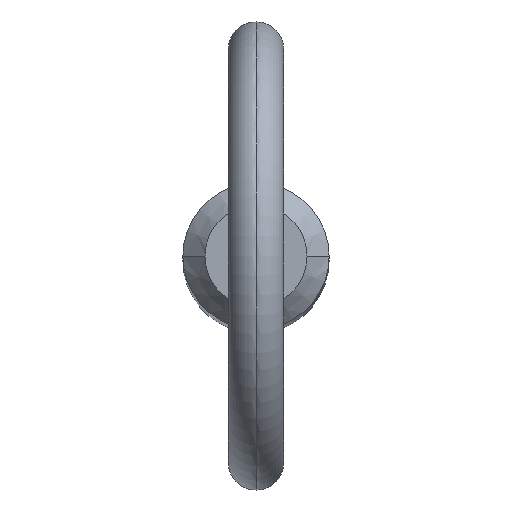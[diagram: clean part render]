
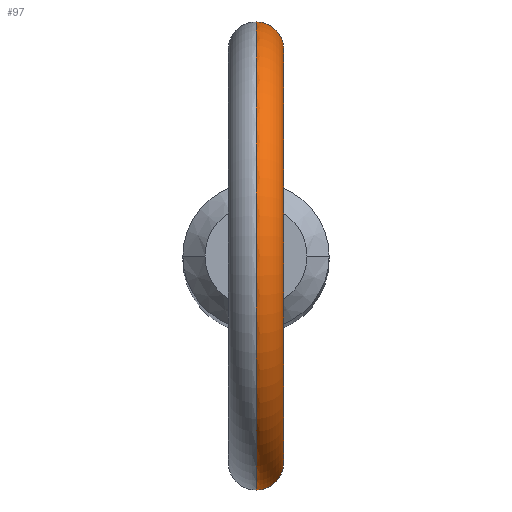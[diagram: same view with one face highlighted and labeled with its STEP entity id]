
A CAD part, top view. The second image highlights one B-rep face of the part: STEP entity #97.
In plain terms, the highlighted toroidal (fillet/blend) face has major radius 11.2 mm and minor radius 1.5 mm.
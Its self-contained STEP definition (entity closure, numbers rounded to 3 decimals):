
#3 = AXIS2_PLACEMENT_3D ( 'NONE', #387, #156, #346 ) ;
#11 = DIRECTION ( 'NONE',  ( 1., 0., 0. ) ) ;
#17 = ORIENTED_EDGE ( 'NONE', *, *, #485, .F. ) ;
#20 = CARTESIAN_POINT ( 'NONE',  ( 1.346, -3.73, 108.108 ) ) ;
#22 = CARTESIAN_POINT ( 'NONE',  ( 0.77, -3.894, 110.3 ) ) ;
#26 = CARTESIAN_POINT ( 'NONE',  ( 0.409, -3.948, 107.374 ) ) ;
#30 = VERTEX_POINT ( 'NONE', #427 ) ;
#33 = CARTESIAN_POINT ( 'NONE',  ( 1.236, 3.77, 107.929 ) ) ;
#34 = CARTESIAN_POINT ( 'NONE',  ( 1.488, 3.675, 109.105 ) ) ;
#36 = TOROIDAL_SURFACE ( 'NONE', #3, 11.2, 1.5 ) ;
#49 = DIRECTION ( 'NONE',  ( 0., 0., -1. ) ) ;
#57 = CARTESIAN_POINT ( 'NONE',  ( 1.291, -3.75, 109.683 ) ) ;
#58 = CARTESIAN_POINT ( 'NONE',  ( 0., 0., 119.4 ) ) ;
#62 = CARTESIAN_POINT ( 'NONE',  ( 0.102, -3.965, 110.547 ) ) ;
#65 = CARTESIAN_POINT ( 'NONE',  ( 0.205, -3.961, 110.534 ) ) ;
#67 = CARTESIAN_POINT ( 'NONE',  ( 0., -3.965, 110.547 ) ) ;
#69 = B_SPLINE_CURVE_WITH_KNOTS ( 'NONE', 3,
 ( #309, #433, #506, #268, #263, #310, #464, #33, #192, #72, #386, #73, #149, #34, #468, #501, #191, #78, #189, #463, #262, #352 ),
 .UNSPECIFIED., .F., .F.,
 ( 4, 2, 2, 2, 2, 2, 2, 2, 2, 2, 4 ),
 ( 0.001, 0.001, 0.002, 0.002, 0.003, 0.003, 0.003, 0.004, 0.004, 0.005, 0.006 ),
 .UNSPECIFIED. ) ;
#72 = CARTESIAN_POINT ( 'NONE',  ( 1.447, 3.692, 108.393 ) ) ;
#73 = CARTESIAN_POINT ( 'NONE',  ( 1.499, 3.671, 108.694 ) ) ;
#78 = CARTESIAN_POINT ( 'NONE',  ( 0.927, 3.858, 110.167 ) ) ;
#97 = ADVANCED_FACE ( 'NONE', ( #322 ), #36, .T. ) ;
#102 = DIRECTION ( 'NONE',  ( 1., 0., 0. ) ) ;
#130 = EDGE_LOOP ( 'NONE', ( #425, #319, #17, #227 ) ) ;
#136 = EDGE_CURVE ( 'NONE', #30, #417, #69, .T. ) ;
#140 = CARTESIAN_POINT ( 'NONE',  ( 0.949, -3.851, 107.649 ) ) ;
#141 = CARTESIAN_POINT ( 'NONE',  ( 0.693, -3.905, 107.49 ) ) ;
#149 = CARTESIAN_POINT ( 'NONE',  ( 1.503, 3.669, 108.798 ) ) ;
#156 = DIRECTION ( 'NONE',  ( 1., 0., 0. ) ) ;
#177 = CARTESIAN_POINT ( 'NONE',  ( 1.493, -3.673, 109.004 ) ) ;
#179 = CARTESIAN_POINT ( 'NONE',  ( 1.404, -3.708, 109.401 ) ) ;
#180 = CIRCLE ( 'NONE', #461, 9.7 ) ;
#183 = CARTESIAN_POINT ( 'NONE',  ( 0.404, -3.946, 110.482 ) ) ;
#184 = CARTESIAN_POINT ( 'NONE',  ( 0.782, -3.888, 107.537 ) ) ;
#189 = CARTESIAN_POINT ( 'NONE',  ( 0.769, 3.894, 110.301 ) ) ;
#191 = CARTESIAN_POINT ( 'NONE',  ( 1.185, 3.786, 109.86 ) ) ;
#192 = CARTESIAN_POINT ( 'NONE',  ( 1.344, 3.731, 108.103 ) ) ;
#210 = CARTESIAN_POINT ( 'NONE',  ( 0., -3.965, 107.335 ) ) ;
#215 = CARTESIAN_POINT ( 'NONE',  ( 1.447, -3.692, 108.393 ) ) ;
#216 = CARTESIAN_POINT ( 'NONE',  ( 1.434, -3.697, 109.305 ) ) ;
#227 = ORIENTED_EDGE ( 'NONE', *, *, #502, .F. ) ;
#250 = CARTESIAN_POINT ( 'NONE',  ( 0.925, -3.858, 110.168 ) ) ;
#253 = CARTESIAN_POINT ( 'NONE',  ( 1.499, -3.671, 108.697 ) ) ;
#259 = CARTESIAN_POINT ( 'NONE',  ( 1.186, -3.786, 109.859 ) ) ;
#262 = CARTESIAN_POINT ( 'NONE',  ( 0.206, 3.965, 110.547 ) ) ;
#263 = CARTESIAN_POINT ( 'NONE',  ( 0.782, 3.888, 107.537 ) ) ;
#268 = CARTESIAN_POINT ( 'NONE',  ( 0.691, 3.905, 107.489 ) ) ;
#283 = CARTESIAN_POINT ( 'NONE',  ( 0., 0., 119.4 ) ) ;
#309 = CARTESIAN_POINT ( 'NONE',  ( 0., 3.965, 107.335 ) ) ;
#310 = CARTESIAN_POINT ( 'NONE',  ( 0.949, 3.851, 107.649 ) ) ;
#319 = ORIENTED_EDGE ( 'NONE', *, *, #363, .T. ) ;
#322 = FACE_OUTER_BOUND ( 'NONE', #130, .T. ) ;
#326 = B_SPLINE_CURVE_WITH_KNOTS ( 'NONE', 3,
 ( #67, #62, #65, #183, #497, #22, #250, #259, #57, #179, #216, #455, #177, #378, #253, #373, #215, #20, #453, #333, #140, #184, #141, #26, #416, #340 ),
 .UNSPECIFIED., .F., .F.,
 ( 4, 2, 2, 2, 2, 2, 2, 2, 2, 2, 2, 2, 4 ),
 ( 0.004, 0.005, 0.005, 0.005, 0.006, 0.006, 0.007, 0.007, 0.007, 0.008, 0.008, 0.008, 0.009 ),
 .UNSPECIFIED. ) ;
#333 = CARTESIAN_POINT ( 'NONE',  ( 1.028, -3.83, 107.715 ) ) ;
#336 = DIRECTION ( 'NONE',  ( 0., 0., -1. ) ) ;
#337 = CARTESIAN_POINT ( 'NONE',  ( 0., -3.965, 110.547 ) ) ;
#340 = CARTESIAN_POINT ( 'NONE',  ( 0., -3.965, 107.335 ) ) ;
#345 = VERTEX_POINT ( 'NONE', #337 ) ;
#346 = DIRECTION ( 'NONE',  ( 0., 0., -1. ) ) ;
#352 = CARTESIAN_POINT ( 'NONE',  ( 0., 3.965, 110.547 ) ) ;
#353 = VERTEX_POINT ( 'NONE', #210 ) ;
#358 = CIRCLE ( 'NONE', #438, 12.7 ) ;
#363 = EDGE_CURVE ( 'NONE', #30, #353, #358, .T. ) ;
#373 = CARTESIAN_POINT ( 'NONE',  ( 1.471, -3.682, 108.494 ) ) ;
#378 = CARTESIAN_POINT ( 'NONE',  ( 1.503, -3.669, 108.799 ) ) ;
#386 = CARTESIAN_POINT ( 'NONE',  ( 1.47, 3.682, 108.492 ) ) ;
#387 = CARTESIAN_POINT ( 'NONE',  ( 0., 0., 119.4 ) ) ;
#416 = CARTESIAN_POINT ( 'NONE',  ( 0.205, -3.965, 107.335 ) ) ;
#417 = VERTEX_POINT ( 'NONE', #487 ) ;
#425 = ORIENTED_EDGE ( 'NONE', *, *, #136, .F. ) ;
#427 = CARTESIAN_POINT ( 'NONE',  ( 0., 3.965, 107.335 ) ) ;
#433 = CARTESIAN_POINT ( 'NONE',  ( 0.204, 3.965, 107.335 ) ) ;
#438 = AXIS2_PLACEMENT_3D ( 'NONE', #283, #11, #49 ) ;
#453 = CARTESIAN_POINT ( 'NONE',  ( 1.237, -3.77, 107.931 ) ) ;
#455 = CARTESIAN_POINT ( 'NONE',  ( 1.479, -3.679, 109.107 ) ) ;
#461 = AXIS2_PLACEMENT_3D ( 'NONE', #58, #102, #336 ) ;
#463 = CARTESIAN_POINT ( 'NONE',  ( 0.411, 3.948, 110.491 ) ) ;
#464 = CARTESIAN_POINT ( 'NONE',  ( 1.026, 3.831, 107.713 ) ) ;
#468 = CARTESIAN_POINT ( 'NONE',  ( 1.441, 3.695, 109.308 ) ) ;
#485 = EDGE_CURVE ( 'NONE', #345, #353, #326, .T. ) ;
#487 = CARTESIAN_POINT ( 'NONE',  ( 0., 3.965, 110.547 ) ) ;
#497 = CARTESIAN_POINT ( 'NONE',  ( 0.498, -3.935, 110.444 ) ) ;
#501 = CARTESIAN_POINT ( 'NONE',  ( 1.291, 3.75, 109.684 ) ) ;
#502 = EDGE_CURVE ( 'NONE', #417, #345, #180, .T. ) ;
#506 = CARTESIAN_POINT ( 'NONE',  ( 0.41, 3.948, 107.374 ) ) ;
